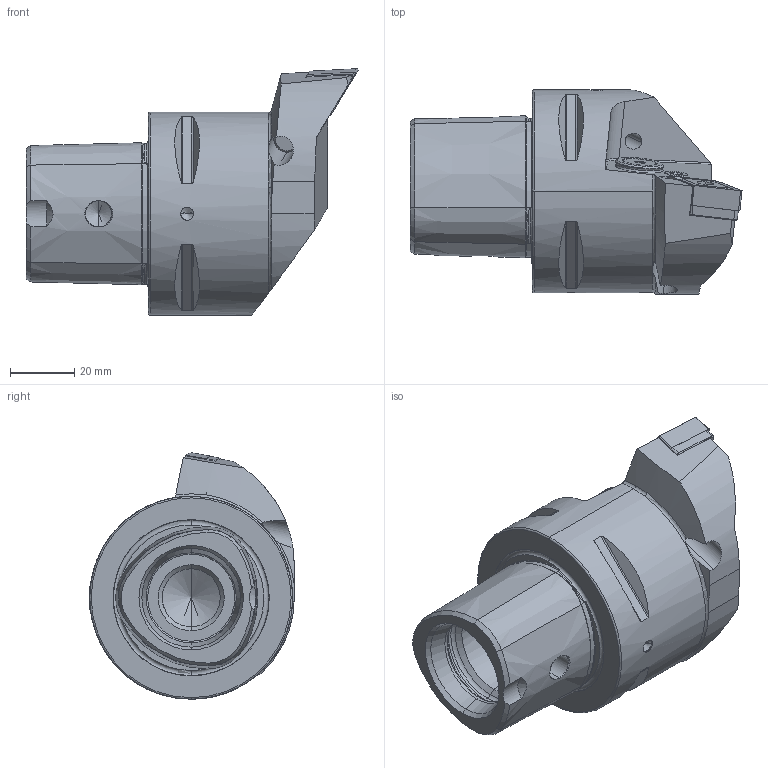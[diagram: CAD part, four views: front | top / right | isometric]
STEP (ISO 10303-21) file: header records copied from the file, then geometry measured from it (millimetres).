
FILE_DESCRIPTION (( 'STEP AP214' ), '1' );
FILE_NAME ('PS6.PDF.LJA.065-HP.STEP', '2020-09-11T12:05:01', ( '' ), ( '' ), 'SwSTEP 2.0', 'SolidWorks 2017', '' );
FILE_SCHEMA (( 'AUTOMOTIVE_DESIGN' ));
Length unit declared in the file: millimetre
Products named in the file (13): DIN 3771 - 13x1; PS6.PDF.LJA.065-HP; WDF-ER3.101.000_A; CHP-ER1.015.006_A; CHP-ER1.015.006; ISO 8752 2x8; PS6-PDF.LJA.065-HP_A; CHP-ER1.008.014_A; DIN 7991 - M5x15; WDF-ER2.101.003_A; WCD-ER4.101.017_A; DNMG150604; WCD-ER1.101.000
Assembly tree (12 placements, depth 3):
  PS6.PDF.LJA.065-HP
    PS6-PDF.LJA.065-HP_A
    DNMG150604
    WDF-ER3.101.000_A
    WCD-ER1.101.000
    WCD-ER4.101.017_A
    WDF-ER2.101.003_A
    CHP-ER1.008.014_A
    ISO 8752 2x8
    CHP-ER1.015.006
      CHP-ER1.015.006_A
      DIN 3771 - 13x1
      DIN 7991 - M5x15
Bounding box: 103 x 63.5 x 76.5 mm (x, y, z)
Volume: 167533.1 mm3; surface area: 34013.7 mm2
Topology: 11 solids, 11 shells, 445 faces, 1070 edges, 635 vertices
Faces by surface type: cone 135, plane 131, cylinder 113, torus 54, bspline 12
Entity records: 14676 total; most frequent: CARTESIAN_POINT 4000, DIRECTION 2132, ORIENTED_EDGE 2092, EDGE_CURVE 1046, AXIS2_PLACEMENT_3D 846, VERTEX_POINT 635, EDGE_LOOP 477, FACE_OUTER_BOUND 445
